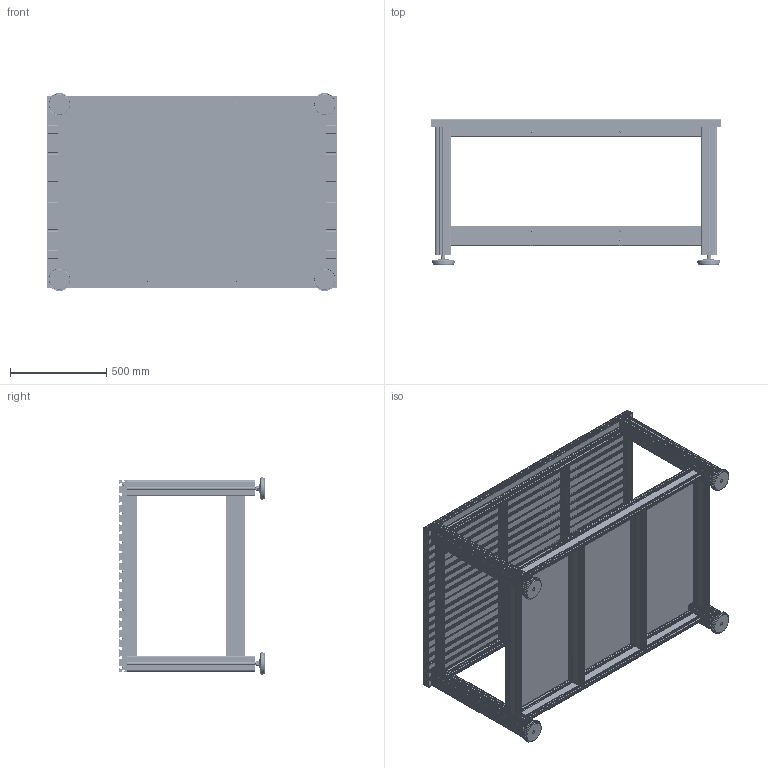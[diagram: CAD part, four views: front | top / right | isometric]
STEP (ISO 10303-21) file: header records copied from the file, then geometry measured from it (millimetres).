
FILE_DESCRIPTION (( 'STEP AP203' ), '1' );
FILE_NAME ('Arbeitstisch AT 3 mit Einlegeboden - ArtNr 248550 0013+248551 0013.STEP', '2013-02-07T13:17:31', ( 'test' ), ( 'Microsoft' ), 'SwSTEP 2.0', 'SolidWorks 2012', '' );
FILE_SCHEMA (( 'CONFIG_CONTROL_DESIGN' ));
Products named in the file (1): Arbeitstisch AT 3 mit Einlegeboden - ArtNr 248550 0013+248551 0013
Bounding box: 1510.4 x 755 x 1030 mm (x, y, z)
Volume: 32308874.8 mm3; surface area: 24458984.6 mm2
Topology: 111 solids, 111 shells, 7174 faces, 20678 edges, 13558 vertices
Faces by surface type: plane 4778, cylinder 2116, cone 172, torus 80, sphere 28
Full cylindrical faces by diameter (mm): 5.2 x32, 6 x32, 6.6 x56, 7 x28, 10 x4, 10.2 x16, 11 x136, 12 x4, 15.5 x8, 108 x4, 112 x4, 120 x4
Entity records: 243137 total; most frequent: CARTESIAN_POINT 54451, ORIENTED_EDGE 39844, DIRECTION 38278, EDGE_CURVE 19922, LINE 13988, VECTOR 13988, VERTEX_POINT 13334, AXIS2_PLACEMENT_3D 12145
